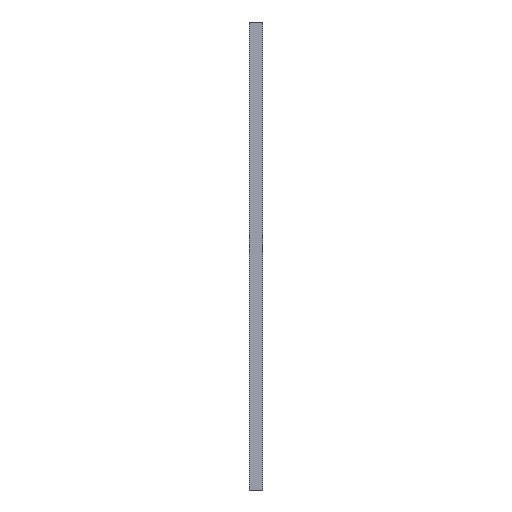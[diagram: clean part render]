
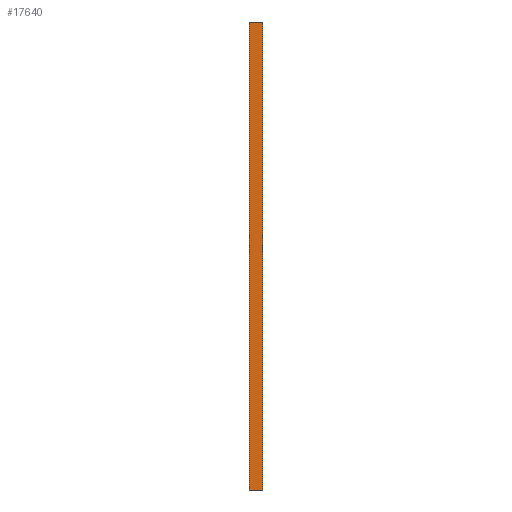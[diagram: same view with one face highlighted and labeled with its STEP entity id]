
A CAD part, left-side view. The second image highlights one B-rep face of the part: STEP entity #17640.
In plain terms, the highlighted planar face has unit normal (-1, 0, 0).
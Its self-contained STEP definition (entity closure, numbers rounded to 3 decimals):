
#279 = EDGE_CURVE ( 'NONE', #7895, #13189, #12168, .T. ) ;
#602 = VECTOR ( 'NONE', #23029, 1000. ) ;
#4225 = CARTESIAN_POINT ( 'NONE',  ( -300., 0., -225. ) ) ;
#5256 = EDGE_CURVE ( 'NONE', #13189, #7602, #32824, .T. ) ;
#6185 = DIRECTION ( 'NONE',  ( 0., 0., 1. ) ) ;
#7010 = CARTESIAN_POINT ( 'NONE',  ( -300., 13., -225. ) ) ;
#7602 = VERTEX_POINT ( 'NONE', #13375 ) ;
#7895 = VERTEX_POINT ( 'NONE', #22971 ) ;
#8456 = ORIENTED_EDGE ( 'NONE', *, *, #22330, .T. ) ;
#8533 = VECTOR ( 'NONE', #27959, 1000. ) ;
#8585 = LINE ( 'NONE', #11783, #8533 ) ;
#9866 = LINE ( 'NONE', #22379, #27509 ) ;
#11113 = VERTEX_POINT ( 'NONE', #4225 ) ;
#11783 = CARTESIAN_POINT ( 'NONE',  ( -300., 13., -225. ) ) ;
#11926 = EDGE_CURVE ( 'NONE', #7895, #11113, #8585, .T. ) ;
#12168 = LINE ( 'NONE', #7010, #602 ) ;
#13189 = VERTEX_POINT ( 'NONE', #33466 ) ;
#13375 = CARTESIAN_POINT ( 'NONE',  ( -300., 0., 225. ) ) ;
#13555 = PLANE ( 'NONE',  #20228 ) ;
#13991 = CARTESIAN_POINT ( 'NONE',  ( -300., 13., 225. ) ) ;
#14324 = ORIENTED_EDGE ( 'NONE', *, *, #11926, .T. ) ;
#17640 = ADVANCED_FACE ( 'NONE', ( #27066 ), #13555, .F. ) ;
#20228 = AXIS2_PLACEMENT_3D ( 'NONE', #21571, #32382, #21752 ) ;
#21317 = EDGE_LOOP ( 'NONE', ( #8456, #22307, #23058, #14324 ) ) ;
#21571 = CARTESIAN_POINT ( 'NONE',  ( -300., 13., -225. ) ) ;
#21752 = DIRECTION ( 'NONE',  ( 0., 0., -1. ) ) ;
#22307 = ORIENTED_EDGE ( 'NONE', *, *, #5256, .F. ) ;
#22330 = EDGE_CURVE ( 'NONE', #11113, #7602, #9866, .T. ) ;
#22379 = CARTESIAN_POINT ( 'NONE',  ( -300., 0., -225. ) ) ;
#22971 = CARTESIAN_POINT ( 'NONE',  ( -300., 13., -225. ) ) ;
#23029 = DIRECTION ( 'NONE',  ( 0., 0., 1. ) ) ;
#23058 = ORIENTED_EDGE ( 'NONE', *, *, #279, .F. ) ;
#27066 = FACE_OUTER_BOUND ( 'NONE', #21317, .T. ) ;
#27509 = VECTOR ( 'NONE', #6185, 1000. ) ;
#27959 = DIRECTION ( 'NONE',  ( 0., -1., 0. ) ) ;
#30150 = DIRECTION ( 'NONE',  ( 0., -1., 0. ) ) ;
#32382 = DIRECTION ( 'NONE',  ( 1., 0., 0. ) ) ;
#32824 = LINE ( 'NONE', #13991, #33356 ) ;
#33356 = VECTOR ( 'NONE', #30150, 1000. ) ;
#33466 = CARTESIAN_POINT ( 'NONE',  ( -300., 13., 225. ) ) ;
